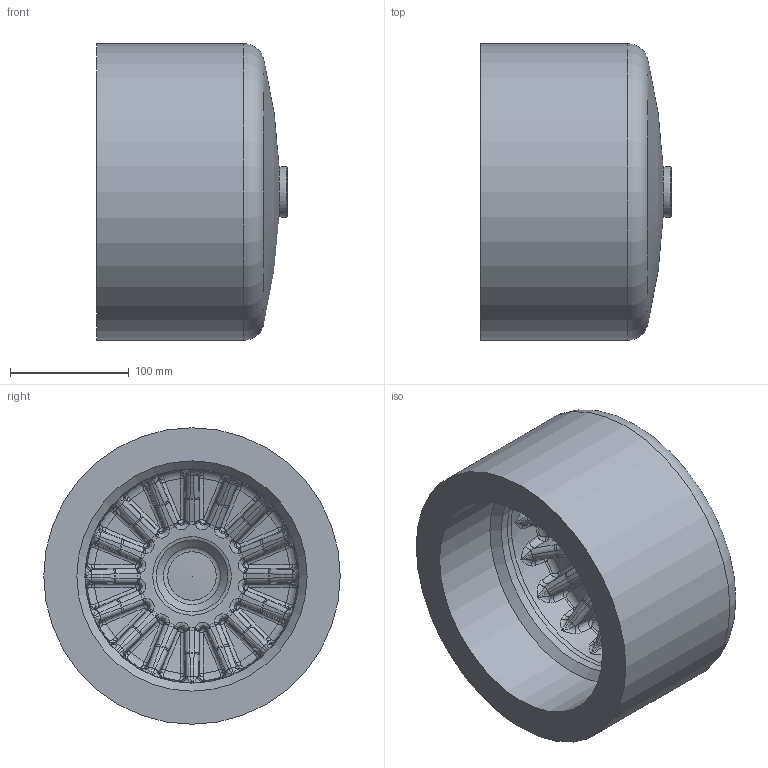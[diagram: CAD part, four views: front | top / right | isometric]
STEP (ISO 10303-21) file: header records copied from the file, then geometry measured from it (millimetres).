
FILE_DESCRIPTION(/* description */ ('Unknown'),/* implementation_level */ '2;1');
FILE_NAME(/* name */ 'CAP250G',/* time_stamp */ '2022-04-02T10:48:05+02:00',/* author */ ('Unknown'),/* organization */ ('Unknown'),/* preprocessor_version */ 'ST-DEVELOPER v18.1',/* originating_system */ 'Solid Edge',/* authorisation */ 'Unknown');
FILE_SCHEMA (('AUTOMOTIVE_DESIGN {1 0 10303 214 3 1 1}'));
Length unit declared in the file: millimetre
Products named in the file (1): CAP250G
Bounding box: 160.6 x 250 x 250 mm (x, y, z)
Volume: 4118280.1 mm3; surface area: 276949.8 mm2
Topology: 1 solids, 1 shells, 610 faces, 1431 edges, 775 vertices
Faces by surface type: bspline 368, torus 117, cone 39, plane 34, sphere 34, cylinder 18
Full cylindrical faces by diameter (mm): 194.2 x1, 250 x1
Entity records: 21306 total; most frequent: CARTESIAN_POINT 10196, ORIENTED_EDGE 2720, DIRECTION 1830, EDGE_CURVE 1360, AXIS2_PLACEMENT_3D 899, VERTEX_POINT 769, B_SPLINE_CURVE_WITH_KNOTS 672, FACE_BOUND 627
